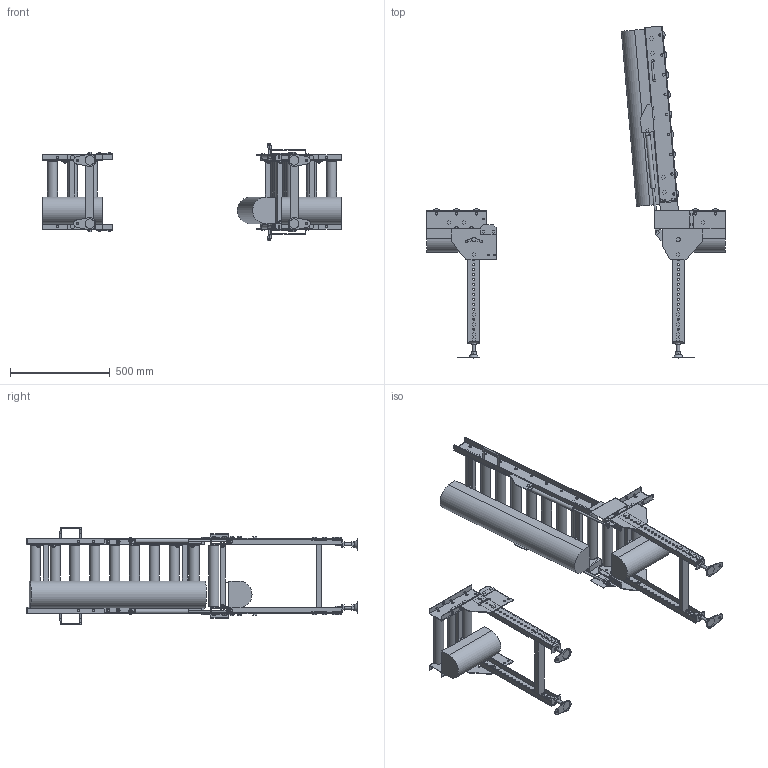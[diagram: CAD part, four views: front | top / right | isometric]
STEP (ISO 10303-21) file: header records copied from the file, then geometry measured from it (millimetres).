
FILE_DESCRIPTION (( 'STEP AP214' ), '1' );
FILE_NAME ('MCD50HU-R-315-100-900.STEP', '2022-11-17T08:39:49', ( '' ), ( '' ), 'SwSTEP 2.0', 'SolidWorks 2017', '' );
FILE_SCHEMA (( 'AUTOMOTIVE_DESIGN' ));
Length unit declared in the file: millimetre
Products named in the file (1): MCD50HU-R-315-100-900
Bounding box: 1500 x 1665.85 x 491.39 mm (x, y, z)
Volume: 35048092.7 mm3; surface area: 3782319.3 mm2
Topology: 5 solids, 31 shells, 2549 faces, 6313 edges, 4019 vertices
Faces by surface type: plane 2105, cylinder 426, cone 10, torus 8
Full cylindrical faces by diameter (mm): 8 x8, 8.5 x8, 9 x20, 10 x58, 10.5 x96, 11 x8, 12 x32, 13 x12, 14 x4, 15 x6, 15.4 x2, 15.7 x2, 16 x10, 17 x4, 18 x6, 18.4 x28, 18.5 x8, 21 x12, 22 x2, 50.8 x15
Entity records: 73446 total; most frequent: CARTESIAN_POINT 12559, DIRECTION 12262, ORIENTED_EDGE 11560, EDGE_CURVE 5780, VECTOR 4390, LINE 4390, AXIS2_PLACEMENT_3D 3936, VERTEX_POINT 3845
